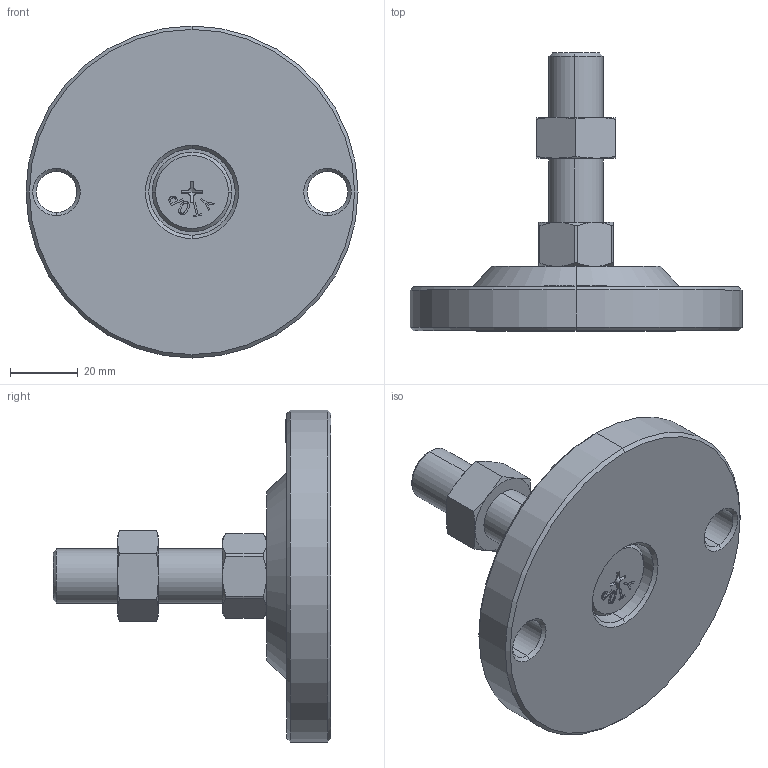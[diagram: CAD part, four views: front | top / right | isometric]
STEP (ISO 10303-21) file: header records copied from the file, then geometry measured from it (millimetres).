
FILE_DESCRIPTION (( 'STEP AP203' ), '1' );
FILE_NAME ('KL-100-1650-P.STEP', '2020-09-10T02:28:36', ( '' ), ( '' ), 'SwSTEP 2.0', 'SolidWorks 2016', '' );
FILE_SCHEMA (( 'CONFIG_CONTROL_DESIGN' ));
Length unit declared in the file: millimetre
Products named in the file (5): 眻芛蹟邡M16炵蹈_M16X50; KL-100-1650-P; KL-100-0.1 KL100菁釱; 螺丝平底十字带商标M10系列_M10X14; 脚垫调节六角螺母M16
Assembly tree (4 placements, depth 2):
  KL-100-1650-P
    KL-100-0.1 KL100菁釱
    眻芛蹟邡M16炵蹈_M16X50
    螺丝平底十字带商标M10系列_M10X14
    脚垫调节六角螺母M16
Bounding box: 98 x 82 x 98 mm (x, y, z)
Volume: 125175.7 mm3; surface area: 28944.7 mm2
Topology: 4 solids, 4 shells, 221 faces, 532 edges, 334 vertices
Faces by surface type: plane 101, cone 64, cylinder 32, bspline 24
Entity records: 8657 total; most frequent: CARTESIAN_POINT 3204, ORIENTED_EDGE 1056, DIRECTION 940, EDGE_CURVE 528, VERTEX_POINT 334, AXIS2_PLACEMENT_3D 326, VECTOR 288, LINE 288
